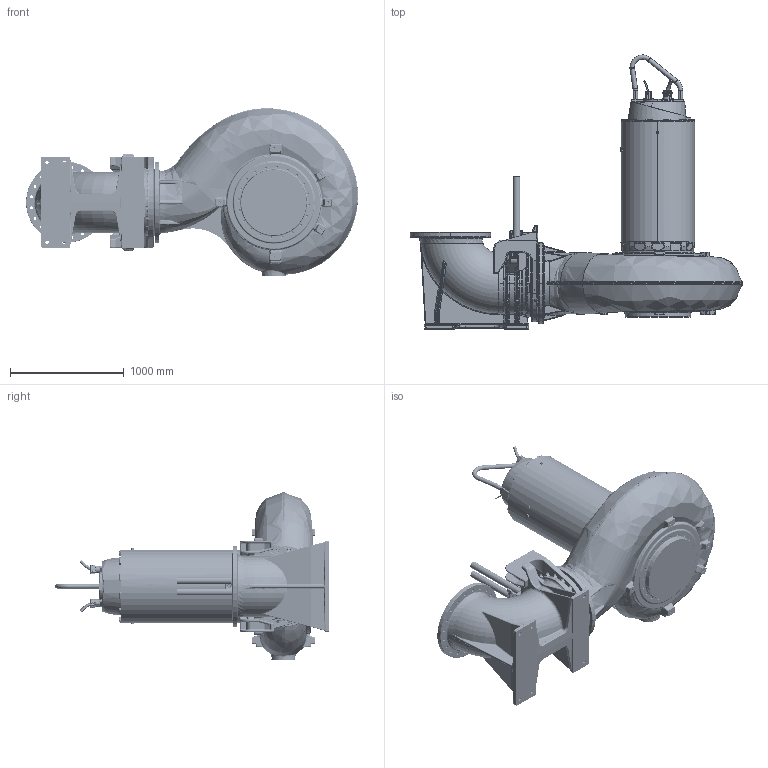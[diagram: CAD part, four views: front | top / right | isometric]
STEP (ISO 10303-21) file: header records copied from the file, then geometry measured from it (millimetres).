
FILE_DESCRIPTION (( 'STEP AP214' ), '1' );
FILE_NAME ('PE6_XFP501U-SK3_WET 2guide_A_NG2.STEP', '2017-03-28T12:10:29', ( '' ), ( '' ), 'SwSTEP 2.0', 'SolidWorks 2017', '' );
FILE_SCHEMA (( 'AUTOMOTIVE_DESIGN' ));
Length unit declared in the file: millimetre
Products named in the file (1): PE6_XFP501U-SK3_WET 2guide_A_NG2
Bounding box: 2913.14 x 2405.25 x 1469.44 mm (x, y, z)
Volume: 1532129628.7 mm3; surface area: 16663450 mm2
Topology: 4 solids, 21 shells, 5494 faces, 13392 edges, 7795 vertices
Faces by surface type: bspline 1563, cylinder 1521, plane 1162, torus 612, cone 371, sphere 265
Entity records: 320549 total; most frequent: CARTESIAN_POINT 144655, ORIENTED_EDGE 26150, DIRECTION 21724, EDGE_CURVE 13075, AXIS2_PLACEMENT_3D 8825, VERTEX_POINT 7764, EDGE_LOOP 5833, UNCERTAINTY_MEASURE_WITH_UNIT 5500
